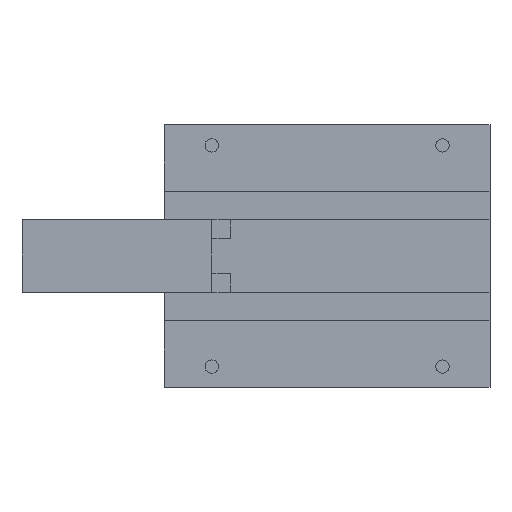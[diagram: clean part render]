
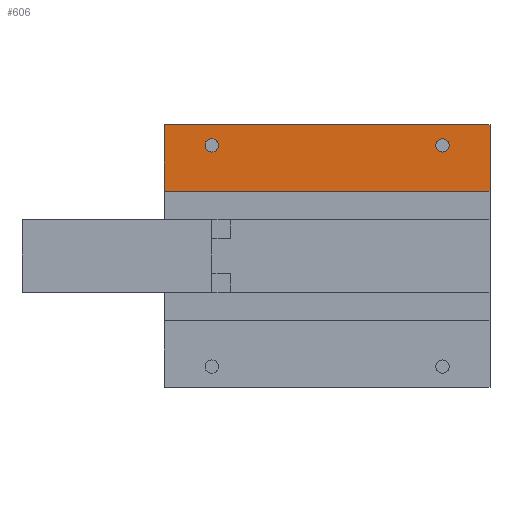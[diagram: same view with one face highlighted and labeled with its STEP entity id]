
A CAD part, top view. The second image highlights one B-rep face of the part: STEP entity #606.
In plain terms, the highlighted planar face has unit normal (0, 0, 1).
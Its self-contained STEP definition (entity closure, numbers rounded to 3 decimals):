
#482=CARTESIAN_POINT('',(172.125,76.5,12.));
#483=VERTEX_POINT('',#482);
#492=CARTESIAN_POINT('',(170.,76.5,12.));
#493=DIRECTION('',(0.,0.,1.));
#494=DIRECTION('',(1.,0.,-0.));
#495=AXIS2_PLACEMENT_3D('',#492,#493,#494);
#496=CIRCLE('',#495,2.125);
#497=EDGE_CURVE('',#483,#483,#496,.T.);
#524=CARTESIAN_POINT('',(245.125,76.5,12.));
#525=VERTEX_POINT('',#524);
#534=CARTESIAN_POINT('',(243.,76.5,12.));
#535=DIRECTION('',(0.,0.,1.));
#536=DIRECTION('',(1.,0.,-0.));
#537=AXIS2_PLACEMENT_3D('',#534,#535,#536);
#538=CIRCLE('',#537,2.125);
#539=EDGE_CURVE('',#525,#525,#538,.T.);
#561=CARTESIAN_POINT('',(258.,72.5,12.));
#562=DIRECTION('',(0.,0.,-1.));
#563=DIRECTION('',(0.,1.,0.));
#564=AXIS2_PLACEMENT_3D('',#561,#562,#563);
#565=PLANE('',#564);
#566=CARTESIAN_POINT('',(155.,83.,12.));
#567=VERTEX_POINT('',#566);
#568=CARTESIAN_POINT('',(155.,62.,12.));
#569=VERTEX_POINT('',#568);
#570=CARTESIAN_POINT('',(155.,83.,12.));
#571=DIRECTION('',(0.,-1.,0.));
#572=VECTOR('',#571,21.);
#573=LINE('',#570,#572);
#574=EDGE_CURVE('',#567,#569,#573,.T.);
#575=ORIENTED_EDGE('',*,*,#574,.T.);
#576=CARTESIAN_POINT('',(258.,62.,12.));
#577=VERTEX_POINT('',#576);
#578=CARTESIAN_POINT('',(258.,62.,12.));
#579=DIRECTION('',(-1.,0.,0.));
#580=VECTOR('',#579,103.);
#581=LINE('',#578,#580);
#582=EDGE_CURVE('',#577,#569,#581,.T.);
#583=ORIENTED_EDGE('',*,*,#582,.F.);
#584=CARTESIAN_POINT('',(258.,83.,12.));
#585=VERTEX_POINT('',#584);
#586=CARTESIAN_POINT('',(258.,83.,12.));
#587=DIRECTION('',(0.,-1.,0.));
#588=VECTOR('',#587,21.);
#589=LINE('',#586,#588);
#590=EDGE_CURVE('',#585,#577,#589,.T.);
#591=ORIENTED_EDGE('',*,*,#590,.F.);
#592=CARTESIAN_POINT('',(258.,83.,12.));
#593=DIRECTION('',(-1.,0.,0.));
#594=VECTOR('',#593,103.);
#595=LINE('',#592,#594);
#596=EDGE_CURVE('',#585,#567,#595,.T.);
#597=ORIENTED_EDGE('',*,*,#596,.T.);
#598=EDGE_LOOP('',(#575,#583,#591,#597));
#599=FACE_BOUND('',#598,.T.);
#600=ORIENTED_EDGE('',*,*,#497,.F.);
#601=EDGE_LOOP('',(#600));
#602=FACE_BOUND('',#601,.T.);
#603=ORIENTED_EDGE('',*,*,#539,.F.);
#604=EDGE_LOOP('',(#603));
#605=FACE_BOUND('',#604,.T.);
#606=ADVANCED_FACE('',(#599,#602,#605),#565,.F.);
